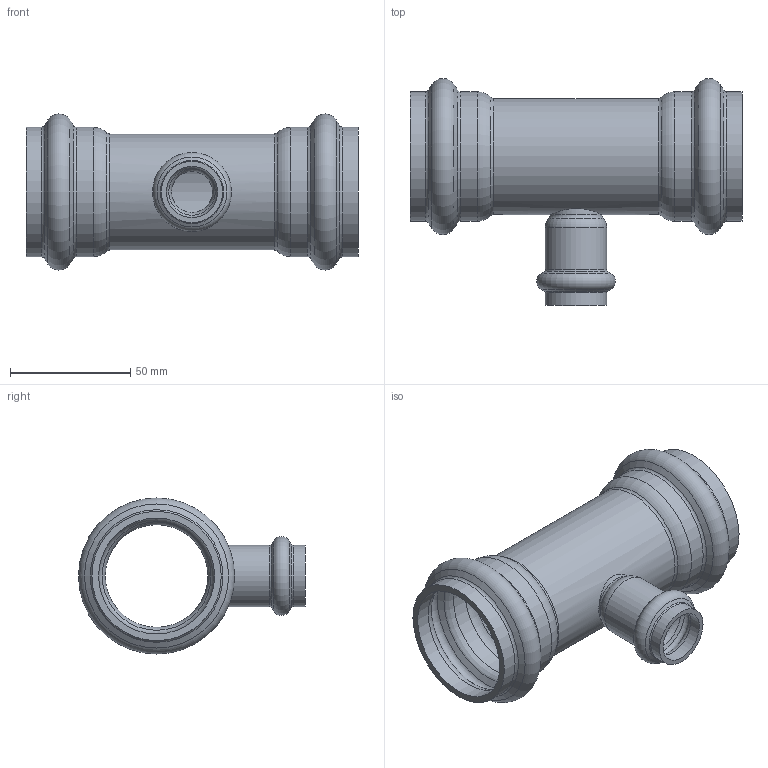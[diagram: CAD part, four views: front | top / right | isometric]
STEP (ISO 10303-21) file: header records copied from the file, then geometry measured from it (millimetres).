
FILE_DESCRIPTION(/* description */ ('VIC TEE RED. BRANCH STYLE P593 (P X P X P)','CAx-IF Rec.Pracs.---Representation and Presentation of Product Manufacturing Information (PMI)---4.0---2014-10-13'),/* implementation_level */ '2;1');
FILE_NAME(/* name */ 'C:\Users\Vjadhav\AppData\Roaming\Autodesk\ApplicationPlugins\Back Up\Victaulic_SS-Vic-Press-TP 304_Tee Reducing_Style P593 (VP)\Victaulic_SS-Vic-Press-TP 304_Tee Reducing_Style P593 (VP)_01.5x0.50 (40x15).stp',/* time_stamp */ '2020-08-12T18:32:28+05:00',/* author */ ('cgray'),/* organization */ ('Victaulic'),/* preprocessor_version */ 'ST-DEVELOPER v17.2',/* originating_system */ 'Autodesk Inventor 2019',/* authorisation */ '');
FILE_SCHEMA (('AP242_MANAGED_MODEL_BASED_3D_ENGINEERING_MIM_LF { 1 0 10303 442 1 1 4 }'));
Length unit declared in the file: inch
Products named in the file (1): P593-01.5x0.5
Bounding box: 138.18 x 94.46 x 64.97 mm (x, y, z)
Volume: 70780.5 mm3; surface area: 53741.8 mm2
Topology: 1 solids, 1 shells, 64 faces, 227 edges, 164 vertices
Faces by surface type: torus 30, cylinder 19, cone 12, plane 3
Full cylindrical faces by diameter (mm): 17.12 x1, 21.336 x2, 25.552 x2, 42.723 x1, 48.26 x5, 53.797 x4
Entity records: 2910 total; most frequent: CARTESIAN_POINT 588, DIRECTION 553, ORIENTED_EDGE 454, AXIS2_PLACEMENT_3D 262, EDGE_CURVE 227, CIRCLE 184, VERTEX_POINT 164, EDGE_LOOP 67
